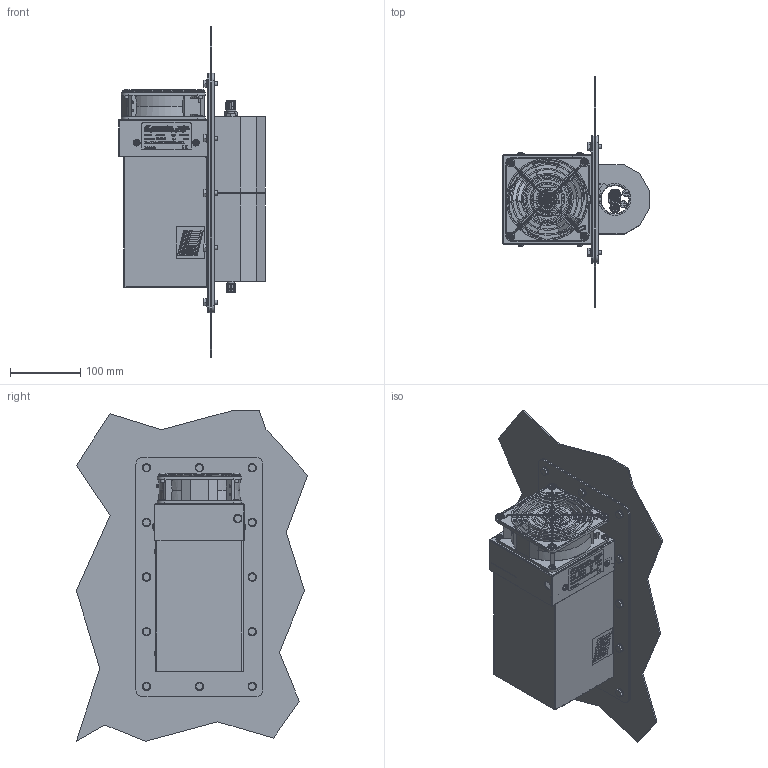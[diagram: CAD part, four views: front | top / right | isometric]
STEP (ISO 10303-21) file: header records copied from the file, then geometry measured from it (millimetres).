
FILE_DESCRIPTION(/* description */ ('Unknown'),/* implementation_level */ '2;1');
FILE_NAME(/* name */ 'JCM3xx_FFM007_JCM31x_Thermounit_OEM#00_Aussenkontur_02072025',/* time_stamp */ '2025-07-02T13:59:49+02:00',/* author */ ('Unknown'),/* organization */ ('Unknown'),/* preprocessor_version */ 'ST-DEVELOPER v20',/* originating_system */ 'Solid Edge',/* authorisation */ 'Unknown');
FILE_SCHEMA (('AUTOMOTIVE_DESIGN {1 0 10303 214 3 1 1}'));
Products named in the file (49): JCM3xx_FFM007_JCM31x_Thermounit_OEM#00 ; JCM3xx_FFM009_JCM31x_Thermounit-SP_m_Befestigungsflansch#01_oa_0; K1046510_Linsenschraube_ISR_ecofix_M4x6_A2; JCM3xx_SLG005_E01310_SLG012_Vorkammer_komplett#04_oa_1; JCM3xx_023_E01310_074_Vorkammer_variante2#04_oa_2; K1046944_KVT023_Einpressmutter M4_PEM SP-M4-0; JCM3xx_SLG005_E01310_SLG012_Vorkammer_komplett#04_45 426_45 076_Auspr
ägung 2_oa_3; JCM3xx_SLG005_E01310_SLG012_Vorkammer_komplett#04_45 426_45 076_Auspr
ägung 2_oa_4; K1219000_JCT_Gerätekleber_Zuschnitt-quadrat#00_oa_5; JCT_Gerätekleber_Zuschitt-quadrat#00; K1219000_JCT_Gerätekleber#00_oa_6; J_Logo#00; K1046524_Linsenschraube_ISR_ISO_14583_M4x8_A2; B1004614_JCT_FFM007_Achsiallüfter_m_Kabel-L700_120x120_230VAC_AF-VORN
E_M5_ausblasend#00_oa_7; K1004614_Sunon_SLG001_Achsiallüfter_120x120x38_230VAC_50-60Hz_m_Kabel
-L700_oa_8; Sunon_002_Achsiallüfterrad; Sunon_009_Achsiallüftergehäuse_120x120_230VAC_Kabel-L700_oa_9; K1237578_EM_SLG016_Einschraubverschr_4-6_NPT14_PV; EM_007_Klemmring_DN6_PV_z_K1237571; EM_043_ESVS-Grundkörper_4-6_NPT14_PV; EM_008_Rändelmutter_4-6_PV_z_K1237571; 80.10405_EM_SLG017_gerade_Einschraubverschr_4-6_NPT18; EM_003_Rändelmutter_4-6_PV; EM_002_Klemmring_DN6_PV; EM_044_gESVS-Grundkörper_4-6_NPT18_PV; JCM3xx_SLG012_GWT-Träger_m_Fixer-Isolation#02_oa_10; JCM3xx_008_GWT-Träger_di40#05; Oberteil_JCM3xx_049_Fixe-Isolation_z_GWT-Träger#02; JCM3xx_050_ARMAFLEX_AUFKLEBER#00_oa_11; Unterteil_JCM3xx_048_Fixe-Isolation_z_GWT-Träger#02; K1007431_Ringkabelschuh_M4x0,8_Cu-SN_isoliert-PVC_150°_0,5-1,5²; K1046514_Linsenschraube_ISR_ecofix_M4x16_A2; GWT4_FFM001_GWT4_D40-EL205_Al-beschichtet_AFLAS#03_oa_12; K1015256_Pfeil_auf_Rundetikett_d10; K1046511_Linsenschraube_ISR_ecofix_M4x8_A2; K1004601_Sunon_003_Fingerschutz z_120x120_Achsiallüfter; K1046531_Linsenschraube_ISR_ecofix_M5x10_A2; JCM3xx_SLG011_Kühlprofilabdeckung_JCM31x#01_oa_13; JCM3xx_018_E01310_077_Kühlkanal_Variante3#01; jcm3xx_033_befestigungsrahmen _f_thermounit-oem#01 ...
Assembly tree (93 placements, depth 5):
  JCM3xx_FFM007_JCM31x_Thermounit_OEM#00 
    JCM3xx_FFM009_JCM31x_Thermounit-SP_m_Befestigungsflansch#01_oa_0
      K1046510_Linsenschraube_ISR_ecofix_M4x6_A2  x4
      JCM3xx_SLG005_E01310_SLG012_Vorkammer_komplett#04_oa_1
        JCM3xx_023_E01310_074_Vorkammer_variante2#04_oa_2
        K1046944_KVT023_Einpressmutter M4_PEM SP-M4-0  x4
        JCM3xx_SLG005_E01310_SLG012_Vorkammer_komplett#04_45 426_45 076_Auspr
ägung 2_oa_3
        JCM3xx_SLG005_E01310_SLG012_Vorkammer_komplett#04_45 426_45 076_Auspr
ägung 2_oa_4
      K1219000_JCT_Gerätekleber_Zuschnitt-quadrat#00_oa_5
      JCT_Gerätekleber_Zuschitt-quadrat#00
        K1219000_JCT_Gerätekleber#00_oa_6
        J_Logo#00
      K1046524_Linsenschraube_ISR_ISO_14583_M4x8_A2
      B1004614_JCT_FFM007_Achsiallüfter_m_Kabel-L700_120x120_230VAC_AF-VORN
E_M5_ausblasend#00_oa_7
        K1004614_Sunon_SLG001_Achsiallüfter_120x120x38_230VAC_50-60Hz_m_Kabel
-L700_oa_8
          Sunon_002_Achsiallüfterrad
          Sunon_009_Achsiallüftergehäuse_120x120_230VAC_Kabel-L700_oa_9
      K1237578_EM_SLG016_Einschraubverschr_4-6_NPT14_PV  x2
        EM_007_Klemmring_DN6_PV_z_K1237571
        EM_043_ESVS-Grundkörper_4-6_NPT14_PV
        EM_008_Rändelmutter_4-6_PV_z_K1237571
      80.10405_EM_SLG017_gerade_Einschraubverschr_4-6_NPT18
        EM_003_Rändelmutter_4-6_PV
        EM_002_Klemmring_DN6_PV
        EM_044_gESVS-Grundkörper_4-6_NPT18_PV
      JCM3xx_SLG012_GWT-Träger_m_Fixer-Isolation#02_oa_10
        JCM3xx_008_GWT-Träger_di40#05
        Oberteil_JCM3xx_049_Fixe-Isolation_z_GWT-Träger#02
        JCM3xx_050_ARMAFLEX_AUFKLEBER#00_oa_11
        Unterteil_JCM3xx_048_Fixe-Isolation_z_GWT-Träger#02
      K1007431_Ringkabelschuh_M4x0,8_Cu-SN_isoliert-PVC_150°_0,5-1,5²
      K1046514_Linsenschraube_ISR_ecofix_M4x16_A2  x9
      GWT4_FFM001_GWT4_D40-EL205_Al-beschichtet_AFLAS#03_oa_12
      K1015256_Pfeil_auf_Rundetikett_d10  x2
      K1046511_Linsenschraube_ISR_ecofix_M4x8_A2  x4
      K1004601_Sunon_003_Fingerschutz z_120x120_Achsiallüfter
      K1046531_Linsenschraube_ISR_ecofix_M5x10_A2  x4
      JCM3xx_SLG011_Kühlprofilabdeckung_JCM31x#01_oa_13
        JCM3xx_018_E01310_077_Kühlkanal_Variante3#01
      jcm3xx_033_befestigungsrahmen _f_thermounit-oem#01
      K1046522_Linsenschraube_ISR_ISO_14583_M3x6_A2  x2
      K1046241_Federring_DIN_127_B_4_A2
      K1015255_Typenschild_JCM-3xx_230VAC
    K1046244_Federring_DIN_128_A_6  x12
    K1046737_6kt_Schraube_ISO_4017_M6x16_A2  x12
    jcm3xx_034_gewindebef-rahmen _f_thermounit-oem#00
    jcm3xx_032_dichtung_f_befestigungsrahmen _f_thermounit-oem#00
    JCM3xx_036_Abdeckung#00
    Blechgehäuseteil_max2mm
Bounding box: 208.4 x 328.13 x 469.08 mm (x, y, z)
Volume: 2062585.1 mm3; surface area: 1023339.1 mm2
Topology: 108 solids, 108 shells, 4260 faces, 10580 edges, 6898 vertices
Faces by surface type: plane 2518, cylinder 919, bspline 376, cone 225, torus 217, sphere 5
Full cylindrical faces by diameter (mm): 1.905 x2, 2.459 x4, 2.5 x2, 2.675 x2, 2.8 x2, 3 x6, 3.2 x4, 3.242 x41, 3.3 x3, 3.454 x1, 3.531 x1, 3.571 x1, 4 x19, 4.134 x4, 4.191 x2, 4.2 x7, 4.343 x1, 4.5 x32, 4.7 x4, 4.9 x2, 4.917 x12, 5 x19, 5.156 x1, 5.35 x12, 5.38 x4, 5.4 x8, 6 x15, 6.2 x2, 6.25 x1, 6.5 x5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
Entity records: 134342 total; most frequent: CARTESIAN_POINT 38671, ORIENTED_EDGE 16060, DIRECTION 14515, EDGE_CURVE 8030, LINE 5615, VECTOR 5615, VERTEX_POINT 5484, AXIS2_PLACEMENT_3D 4450
